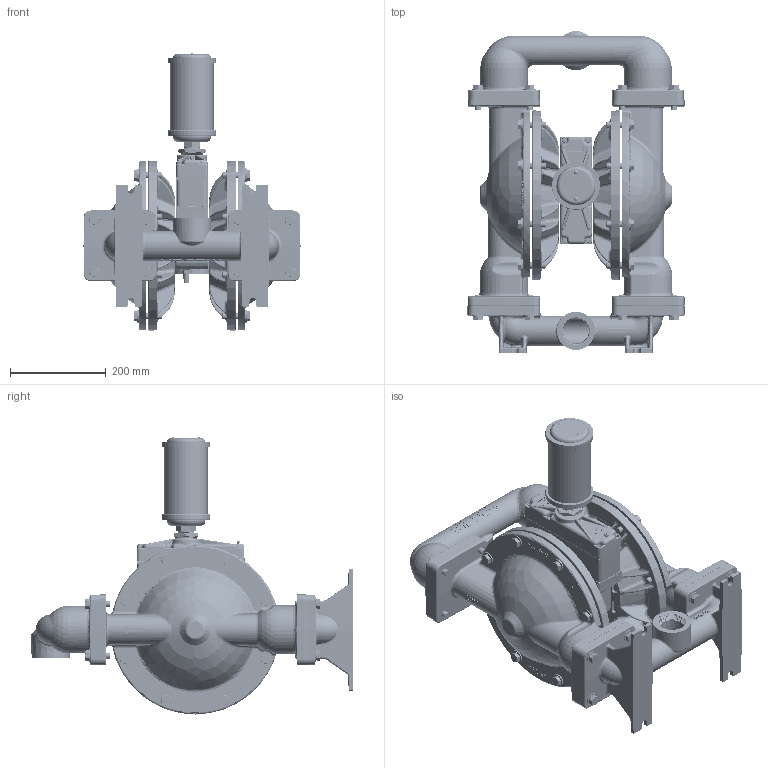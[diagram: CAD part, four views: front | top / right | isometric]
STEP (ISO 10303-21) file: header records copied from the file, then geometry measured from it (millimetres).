
FILE_DESCRIPTION((''),'2;1');
FILE_NAME('PS820_DI_TOP_SW0002','2016-09-21T',('Nathan.hale'),(''),'PRO/ENGINEER BY PARAMETRIC TECHNOLOGY CORPORATION, 2015360','PRO/ENGINEER BY PARAMETRIC TECHNOLOGY CORPORATION, 2015360','');
FILE_SCHEMA(('CONFIG_CONTROL_DESIGN'));
Products named in the file (1): PS820_DI_TOP_SW0002
Bounding box: 452.45 x 670.59 x 578.45 mm (x, y, z)
Volume: 13348552.4 mm3; surface area: 2560589 mm2
Topology: 7 solids, 7 shells, 16605 faces, 43118 edges, 27225 vertices
Faces by surface type: plane 10042, bspline 2203, cylinder 1879, cone 1036, torus 889, sphere 395, extrusion 161
Entity records: 1101362 total; most frequent: CARTESIAN_POINT 711845, ORIENTED_EDGE 86144, DIRECTION 72793, EDGE_CURVE 43072, VECTOR 28739, LINE 28578, VERTEX_POINT 27225, AXIS2_PLACEMENT_3D 22027
